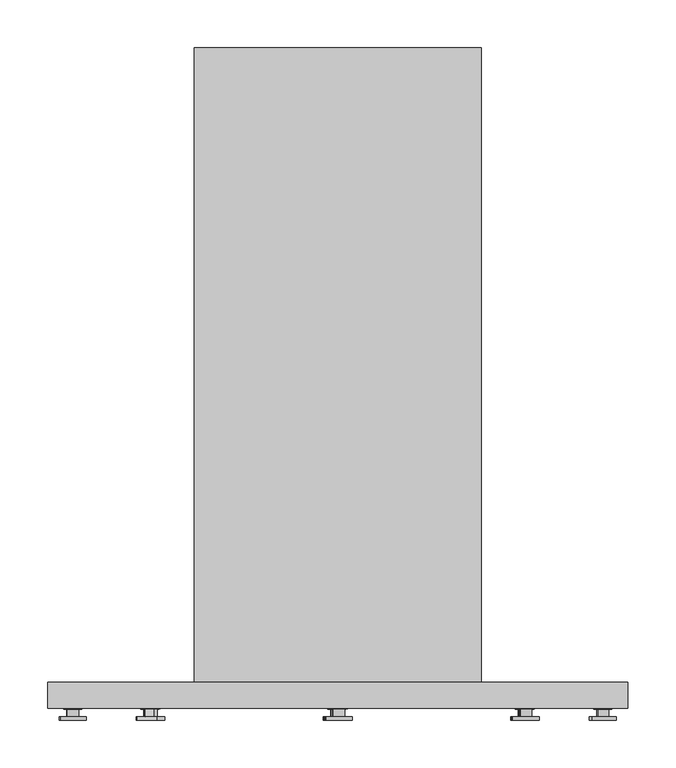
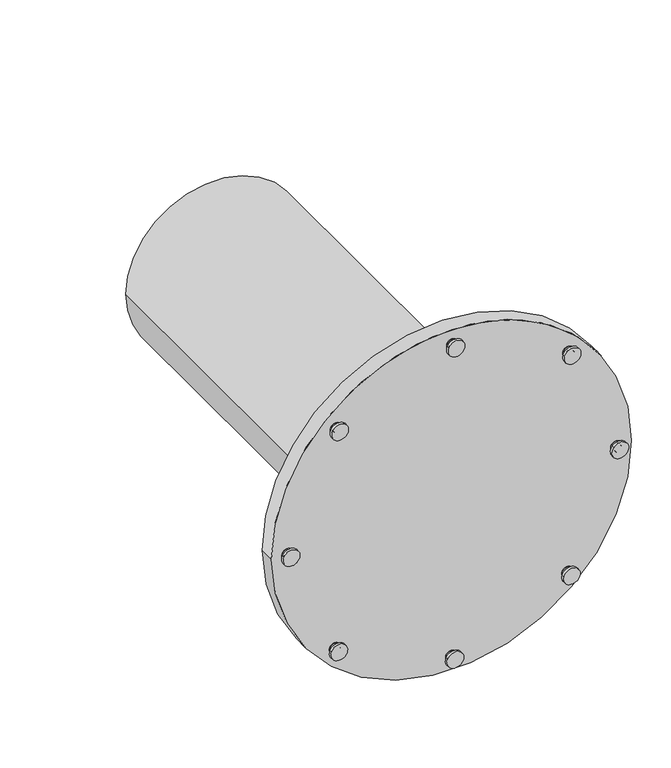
"""IFC4 building model written with IfcOpenShell, lengths in millimetres: proxy geometry, AERO^TABLE 1_AT0D-1207."""

from ifc_helpers import new_model, si_unit, point, frame, frame_2d, origin, place, context, project, spatial, circle_curve, trimmed, segment, composite_curve, outline, extrude, source, transform, mapped, element, save
from ifc_brep_helpers import plane_surface, cylinder_surface, advanced_brep


def generic_models_29dc40a3(model_context):
    return source(origin(), model_context, "Body", "SolidModel", [
        advanced_brep(
        [(-567.7050955, -713.8035, -332.9711654), (-567.7050955, -712.216, -332.9711654), (-585.3873793, -712.216, -325.8831939), (-585.3873793, -713.8035, -325.8831939), (-572.8624283, -712.216, -330.9038404), (-572.8624283, -704.2785, -330.9038404), (-580.2300465, -704.2785, -327.9505189), (-580.2300465, -712.216, -327.9505189)],
        [
            (0, 1),
            (1, 2, circle_curve(frame((-576.5462374, -712.216, -329.4271796), z_axis=(0.0, -1.0000000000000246, 0.0), x_axis=(0.9282038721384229, 0.0, -0.37207199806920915)), 9.525)),
            (2, 3),
            (3, 0, circle_curve(frame((-576.5462374, -713.8035, -329.4271796), z_axis=(0.0, 1.0000000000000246, 0.0), x_axis=(0.9282038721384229, 0.0, -0.37207199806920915)), 9.525)),
            (4, 5),
            (5, 6, circle_curve(frame((-576.5462374, -704.2785, -329.4271796), z_axis=(0.0, -1.0000000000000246, 0.0), x_axis=(0.9282038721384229, 0.0, -0.37207199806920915)), 3.96875)),
            (6, 7),
            (7, 4, circle_curve(frame((-576.5462374, -712.216, -329.4271796), z_axis=(0.0, 1.0000000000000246, 0.0), x_axis=(0.9282038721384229, 0.0, -0.37207199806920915)), 3.96875)),
            (5, 6, circle_curve(frame((-576.5462374, -704.2785, -329.4271796), z_axis=(0.0, 1.0000000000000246, 0.0), x_axis=(0.9282038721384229, 0.0, -0.37207199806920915)), 3.96875)),
            (3, 0, circle_curve(frame((-576.5462374, -713.8035, -329.4271796), z_axis=(0.0, -1.0000000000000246, 0.0), x_axis=(0.9282038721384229, 0.0, -0.37207199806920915)), 9.525)),
            (4, 7, circle_curve(frame((-576.5462374, -712.216, -329.4271796), z_axis=(0.0, 1.0000000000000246, 0.0), x_axis=(0.9282038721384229, 0.0, -0.37207199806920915)), 3.96875)),
            (2, 1, circle_curve(frame((-576.5462374, -712.216, -329.4271796), z_axis=(0.0, -1.0000000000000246, 0.0), x_axis=(0.9282038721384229, 0.0, -0.37207199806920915)), 9.525)),
        ],
        [
            cylinder_surface(frame((-576.5462374, -713.8035, -329.4271796), z_axis=(0.0, 1.0000000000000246, 0.0), x_axis=(0.9282038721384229, 0.0, -0.37207199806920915)), 9.525),
            cylinder_surface(frame((-576.5462374, -712.216, -329.4271796), z_axis=(0.0, 1.0000000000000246, 0.0), x_axis=(0.9282038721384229, 0.0, -0.37207199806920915)), 3.96875),
            plane_surface(frame((-576.5462374, -704.2785, -329.4271796), z_axis=(0.0, 1.0000000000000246, 0.0), x_axis=(0.9282038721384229, 0.0, -0.37207199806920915))),
            plane_surface(frame((-576.5462374, -713.8035, -329.4271796), z_axis=(0.0, -1.0000000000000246, 0.0), x_axis=(0.9282038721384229, 0.0, -0.37207199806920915))),
            plane_surface(frame((-576.5462374, -712.216, -329.4271796), z_axis=(0.0, 1.0000000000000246, 0.0), x_axis=(0.9282038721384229, 0.0, -0.37207199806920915))),
        ],
        [
            (0, [[1, 2, 3, 4]]),
            (1, [[5, 6, 7, 8]]),
            (2, [[9, -6]]),
            (3, [[10, -4]]),
            (1, [[-5, 11, -7, -9]]),
            (0, [[-1, -10, -3, 12]]),
            (4, [[-12, -2], [-11, -8]]),
        ],
    ),
        advanced_brep(
        [(-294.154009, -713.8035, -612.7058237), (-294.154009, -721.741, -612.7058237), (-304.2084977, -721.741, -604.9471345), (-304.2084977, -713.8035, -604.9471345), (-287.8699537, -721.741, -617.5550045), (-287.8699537, -725.70975, -617.5550045), (-310.492553, -725.70975, -600.0979537), (-310.492553, -721.741, -600.0979537)],
        [
            (0, 1),
            (1, 2, circle_curve(frame((-299.1812534, -721.741, -608.8264791), z_axis=(0.0, 1.0000000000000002, 0.0), x_axis=(0.7916920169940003, 0.0, -0.6109204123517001)), 6.35)),
            (2, 3),
            (3, 0, circle_curve(frame((-299.1812534, -713.8035, -608.8264791), z_axis=(0.0, -1.0000000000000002, 0.0), x_axis=(0.7916920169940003, 0.0, -0.6109204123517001)), 6.35)),
            (4, 5),
            (5, 6, circle_curve(frame((-299.1812534, -725.70975, -608.8264791), z_axis=(0.0, 1.0000000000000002, 0.0), x_axis=(0.7916920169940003, 0.0, -0.6109204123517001)), 14.2875)),
            (6, 7),
            (7, 4, circle_curve(frame((-299.1812534, -721.741, -608.8264791), z_axis=(0.0, -1.0000000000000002, 0.0), x_axis=(0.7916920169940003, 0.0, -0.6109204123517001)), 14.2875)),
            (7, 4, circle_curve(frame((-299.1812534, -721.741, -608.8264791), z_axis=(0.0, 1.0000000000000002, 0.0), x_axis=(0.7916920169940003, 0.0, -0.6109204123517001)), 14.2875)),
            (1, 2, circle_curve(frame((-299.1812534, -721.741, -608.8264791), z_axis=(0.0, -1.0000000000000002, 0.0), x_axis=(0.7916920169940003, 0.0, -0.6109204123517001)), 6.35)),
            (6, 5, circle_curve(frame((-299.1812534, -725.70975, -608.8264791), z_axis=(0.0, 1.0000000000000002, 0.0), x_axis=(0.7916920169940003, 0.0, -0.6109204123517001)), 14.2875)),
            (3, 0, circle_curve(frame((-299.1812534, -713.8035, -608.8264791), z_axis=(0.0, 1.0000000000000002, 0.0), x_axis=(0.7916920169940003, 0.0, -0.6109204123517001)), 6.35)),
        ],
        [
            cylinder_surface(frame((-299.1812534, -714.59725, -608.8264791), z_axis=(0.0, -1.0000000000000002, 0.0), x_axis=(0.7916920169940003, 0.0, -0.6109204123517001)), 6.35),
            cylinder_surface(frame((-299.1812534, -722.53475, -608.8264791), z_axis=(0.0, -1.0000000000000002, 0.0), x_axis=(0.7916920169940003, 0.0, -0.6109204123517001)), 14.2875),
            plane_surface(frame((-288.4983592, -721.741, -617.0700864), z_axis=(0.0, 1.0000000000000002, 0.0), x_axis=(0.6109204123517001, 0.0, 0.7916920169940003))),
            plane_surface(frame((-295.4108201, -713.8035, -611.7359876), z_axis=(0.0, 1.0000000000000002, 0.0), x_axis=(0.6109204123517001, 0.0, 0.7916920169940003))),
            plane_surface(frame((-294.4682118, -725.70975, -612.4633647), z_axis=(0.0, -1.0000000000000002, 0.0), x_axis=(-0.6109204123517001, 0.0, -0.7916920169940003))),
        ],
        [
            (0, [[1, 2, 3, 4]]),
            (1, [[5, 6, 7, 8]]),
            (2, [[9, -8], [10, -2]]),
            (1, [[-5, -9, -7, 11]]),
            (3, [[12, -4]]),
            (0, [[-1, -12, -3, -10]]),
            (4, [[-6, -11]]),
        ],
    ),
        advanced_brep(
        [(-387.5232659, -713.8035, -803.5643143), (-387.5232659, -721.741, -803.5643143), (-375.3502022, -721.741, -807.1846071), (-375.3502022, -713.8035, -807.1846071), (-395.1314307, -721.741, -801.3016313), (-395.1314307, -725.70975, -801.3016313), (-367.7420374, -725.70975, -809.4472901), (-367.7420374, -721.741, -809.4472901)],
        [
            (0, 1),
            (1, 2, circle_curve(frame((-381.4367341, -721.741, -805.3744607), z_axis=(0.0, 0.9999999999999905, 0.0), x_axis=(-0.9585089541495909, 0.0, 0.2850624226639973)), 6.35)),
            (2, 3),
            (3, 0, circle_curve(frame((-381.4367341, -713.8035, -805.3744607), z_axis=(0.0, -0.9999999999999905, 0.0), x_axis=(-0.9585089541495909, 0.0, 0.2850624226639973)), 6.35)),
            (4, 5),
            (5, 6, circle_curve(frame((-381.4367341, -725.70975, -805.3744607), z_axis=(0.0, 0.9999999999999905, 0.0), x_axis=(-0.9585089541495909, 0.0, 0.2850624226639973)), 14.2875)),
            (6, 7),
            (7, 4, circle_curve(frame((-381.4367341, -721.741, -805.3744607), z_axis=(0.0, -0.9999999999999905, 0.0), x_axis=(-0.9585089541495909, 0.0, 0.2850624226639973)), 14.2875)),
            (7, 4, circle_curve(frame((-381.4367341, -721.741, -805.3744607), z_axis=(0.0, 0.9999999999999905, 0.0), x_axis=(-0.9585089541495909, 0.0, 0.2850624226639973)), 14.2875)),
            (1, 2, circle_curve(frame((-381.4367341, -721.741, -805.3744607), z_axis=(0.0, -0.9999999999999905, 0.0), x_axis=(-0.9585089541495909, 0.0, 0.2850624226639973)), 6.35)),
            (6, 5, circle_curve(frame((-381.4367341, -725.70975, -805.3744607), z_axis=(0.0, 0.9999999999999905, 0.0), x_axis=(-0.9585089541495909, 0.0, 0.2850624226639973)), 14.2875)),
            (3, 0, circle_curve(frame((-381.4367341, -713.8035, -805.3744607), z_axis=(0.0, 0.9999999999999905, 0.0), x_axis=(-0.9585089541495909, 0.0, 0.2850624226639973)), 6.35)),
        ],
        [
            cylinder_surface(frame((-381.4367341, -714.59725, -805.3744607), z_axis=(0.0, -0.9999999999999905, 0.0), x_axis=(-0.9585089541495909, 0.0, 0.2850624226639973)), 6.35),
            cylinder_surface(frame((-381.4367341, -722.53475, -805.3744607), z_axis=(0.0, -0.9999999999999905, 0.0), x_axis=(-0.9585089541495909, 0.0, 0.2850624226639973)), 14.2875),
            plane_surface(frame((-394.3706143, -721.741, -801.5278996), z_axis=(0.0, 0.9999999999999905, 0.0), x_axis=(-0.2850624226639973, 0.0, -0.9585089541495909))),
            plane_surface(frame((-386.0016329, -713.8035, -804.0168509), z_axis=(0.0, 0.9999999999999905, 0.0), x_axis=(-0.2850624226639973, 0.0, -0.9585089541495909))),
            plane_surface(frame((-387.1428577, -725.70975, -803.6774485), z_axis=(0.0, -0.9999999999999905, 0.0), x_axis=(0.2850624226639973, 0.0, 0.9585089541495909))),
        ],
        [
            (0, [[1, 2, 3, 4]]),
            (1, [[5, 6, 7, 8]]),
            (2, [[9, -8], [10, -2]]),
            (1, [[-5, -9, -7, 11]]),
            (3, [[12, -4]]),
            (0, [[-1, -12, -3, -10]]),
            (4, [[-6, -11]]),
        ],
    ),
        advanced_brep(
        [(-776.3765448, -713.8035, -415.9979008), (-776.3765448, -721.741, -415.9979008), (-771.0035676, -721.741, -404.4904633), (-771.0035676, -713.8035, -404.4904633), (-779.7346555, -721.741, -423.1900492), (-779.7346555, -725.70975, -423.1900492), (-767.6454568, -725.70975, -397.2983149), (-767.6454568, -721.741, -397.2983149)],
        [
            (0, 1),
            (1, 2, circle_curve(frame((-773.6900562, -721.741, -410.2441821), z_axis=(0.0, 0.9999999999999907, 0.0), x_axis=(-0.42306906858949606, 0.0, -0.9060974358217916)), 6.35)),
            (2, 3),
            (3, 0, circle_curve(frame((-773.6900562, -713.8035, -410.2441821), z_axis=(0.0, -0.9999999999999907, 0.0), x_axis=(-0.42306906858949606, 0.0, -0.9060974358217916)), 6.35)),
            (4, 5),
            (5, 6, circle_curve(frame((-773.6900562, -725.70975, -410.2441821), z_axis=(0.0, 0.9999999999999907, 0.0), x_axis=(-0.42306906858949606, 0.0, -0.9060974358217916)), 14.2875)),
            (6, 7),
            (7, 4, circle_curve(frame((-773.6900562, -721.741, -410.2441821), z_axis=(0.0, -0.9999999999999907, 0.0), x_axis=(-0.42306906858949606, 0.0, -0.9060974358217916)), 14.2875)),
            (7, 4, circle_curve(frame((-773.6900562, -721.741, -410.2441821), z_axis=(0.0, 0.9999999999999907, 0.0), x_axis=(-0.42306906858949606, 0.0, -0.9060974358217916)), 14.2875)),
            (1, 2, circle_curve(frame((-773.6900562, -721.741, -410.2441821), z_axis=(0.0, -0.9999999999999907, 0.0), x_axis=(-0.42306906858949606, 0.0, -0.9060974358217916)), 6.35)),
            (6, 5, circle_curve(frame((-773.6900562, -725.70975, -410.2441821), z_axis=(0.0, 0.9999999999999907, 0.0), x_axis=(-0.42306906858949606, 0.0, -0.9060974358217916)), 14.2875)),
            (3, 0, circle_curve(frame((-773.6900562, -713.8035, -410.2441821), z_axis=(0.0, 0.9999999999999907, 0.0), x_axis=(-0.42306906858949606, 0.0, -0.9060974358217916)), 6.35)),
        ],
        [
            cylinder_surface(frame((-773.6900562, -714.59725, -410.2441821), z_axis=(0.0, -0.9999999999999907, 0.0), x_axis=(-0.42306906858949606, 0.0, -0.9060974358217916)), 6.35),
            cylinder_surface(frame((-773.6900562, -722.53475, -410.2441821), z_axis=(0.0, -0.9999999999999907, 0.0), x_axis=(-0.42306906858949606, 0.0, -0.9060974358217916)), 14.2875),
            plane_surface(frame((-779.3988444, -721.741, -422.4708343), z_axis=(0.0, 0.9999999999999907, 0.0), x_axis=(0.9060974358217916, 0.0, -0.42306906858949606))),
            plane_surface(frame((-775.7049226, -713.8035, -414.5594711), z_axis=(0.0, 0.9999999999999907, 0.0), x_axis=(0.9060974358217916, 0.0, -0.42306906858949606))),
            plane_surface(frame((-776.2086392, -725.70975, -415.6382934), z_axis=(0.0, -0.9999999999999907, 0.0), x_axis=(-0.9060974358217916, 0.0, 0.42306906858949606))),
        ],
        [
            (0, [[1, 2, 3, 4]]),
            (1, [[5, 6, 7, 8]]),
            (2, [[9, -8], [10, -2]]),
            (1, [[-5, -9, -7, 11]]),
            (3, [[12, -4]]),
            (0, [[-1, -12, -3, -10]]),
            (4, [[-6, -11]]),
        ],
    ),
        advanced_brep(
        [(-728.3758951, -19.05, -607.8093214), (-728.3758951, -685.8, -607.8093214), (-426.7508951, -685.8, -607.8093214), (-426.7508951, -19.05, -607.8093214), (-477.5508951, -19.05, -720.6893905), (-477.5508951, -685.8, -720.6893905)],
        [
            (0, 1),
            (1, 2, circle_curve(frame((-577.5633951, -685.8, -607.8093214), z_axis=(0.0, 1.0, 0.0), x_axis=(-1.0, 0.0, 0.0)), 150.8125)),
            (2, 3),
            (3, 0, circle_curve(frame((-577.5633951, -19.05, -607.8093214), z_axis=(0.0, -1.0, 0.0), x_axis=(-1.0, 0.0, 0.0)), 150.8125)),
            (4, 0, circle_curve(frame((-577.5633951, -19.05, -607.8093214), z_axis=(0.0, 1.0, 0.0), x_axis=(-1.0, 0.0, 0.0)), 150.8125)),
            (3, 4, circle_curve(frame((-577.5633951, -19.05, -607.8093214), z_axis=(0.0, 1.0, 0.0), x_axis=(-1.0, 0.0, 0.0)), 150.8125)),
            (1, 5, circle_curve(frame((-577.5633951, -685.8, -607.8093214), z_axis=(0.0, -1.0, 0.0), x_axis=(-1.0, 0.0, 0.0)), 150.8125)),
            (5, 2, circle_curve(frame((-577.5633951, -685.8, -607.8093214), z_axis=(0.0, -1.0, 0.0), x_axis=(-1.0, 0.0, 0.0)), 150.8125)),
        ],
        [
            cylinder_surface(frame((-577.5633951, -19.05, -607.8093214), z_axis=(0.0, -1.0, 0.0), x_axis=(-1.0, 0.0, 0.0)), 150.8125),
            plane_surface(frame((-577.5633951, -19.05, -607.8093214), z_axis=(0.0, 1.0, 0.0), x_axis=(-1.0, 0.0, 0.0))),
            plane_surface(frame((-577.5633951, -685.8, -607.8093214), z_axis=(0.0, -1.0, 0.0), x_axis=(-1.0, 0.0, 0.0))),
        ],
        [
            (0, [[1, 2, 3, 4]]),
            (1, [[5, -4, 6]]),
            (2, [[7, 8, -2]]),
            (0, [[-1, -5, -6, -3, -8, -7]]),
        ],
    ),
        advanced_brep(
        [(-371.1571139, -713.8035, -415.2266461), (-371.1571139, -712.216, -415.2266461), (-388.8393977, -712.216, -408.1386745), (-388.8393977, -713.8035, -408.1386745), (-376.3144467, -712.216, -413.1593211), (-376.3144467, -704.2785, -413.1593211), (-383.6820649, -704.2785, -410.2059996), (-383.6820649, -712.216, -410.2059996)],
        [
            (0, 1),
            (1, 2, circle_curve(frame((-379.9982558, -712.216, -411.6826603), z_axis=(0.0, -1.0000000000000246, 0.0), x_axis=(0.9282038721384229, 0.0, -0.37207199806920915)), 9.525)),
            (2, 3),
            (3, 0, circle_curve(frame((-379.9982558, -713.8035, -411.6826603), z_axis=(0.0, 1.0000000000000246, 0.0), x_axis=(0.9282038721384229, 0.0, -0.37207199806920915)), 9.525)),
            (4, 5),
            (5, 6, circle_curve(frame((-379.9982558, -704.2785, -411.6826603), z_axis=(0.0, -1.0000000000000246, 0.0), x_axis=(0.9282038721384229, 0.0, -0.37207199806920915)), 3.96875)),
            (6, 7),
            (7, 4, circle_curve(frame((-379.9982558, -712.216, -411.6826603), z_axis=(0.0, 1.0000000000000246, 0.0), x_axis=(0.9282038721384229, 0.0, -0.37207199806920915)), 3.96875)),
            (5, 6, circle_curve(frame((-379.9982558, -704.2785, -411.6826603), z_axis=(0.0, 1.0000000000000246, 0.0), x_axis=(0.9282038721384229, 0.0, -0.37207199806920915)), 3.96875)),
            (3, 0, circle_curve(frame((-379.9982558, -713.8035, -411.6826603), z_axis=(0.0, -1.0000000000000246, 0.0), x_axis=(0.9282038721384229, 0.0, -0.37207199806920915)), 9.525)),
            (4, 7, circle_curve(frame((-379.9982558, -712.216, -411.6826603), z_axis=(0.0, 1.0000000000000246, 0.0), x_axis=(0.9282038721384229, 0.0, -0.37207199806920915)), 3.96875)),
            (2, 1, circle_curve(frame((-379.9982558, -712.216, -411.6826603), z_axis=(0.0, -1.0000000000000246, 0.0), x_axis=(0.9282038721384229, 0.0, -0.37207199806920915)), 9.525)),
        ],
        [
            cylinder_surface(frame((-379.9982558, -713.8035, -411.6826603), z_axis=(0.0, 1.0000000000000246, 0.0), x_axis=(0.9282038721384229, 0.0, -0.37207199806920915)), 9.525),
            cylinder_surface(frame((-379.9982558, -712.216, -411.6826603), z_axis=(0.0, 1.0000000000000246, 0.0), x_axis=(0.9282038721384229, 0.0, -0.37207199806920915)), 3.96875),
            plane_surface(frame((-379.9982558, -704.2785, -411.6826603), z_axis=(0.0, 1.0000000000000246, 0.0), x_axis=(0.9282038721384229, 0.0, -0.37207199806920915))),
            plane_surface(frame((-379.9982558, -713.8035, -411.6826603), z_axis=(0.0, -1.0000000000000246, 0.0), x_axis=(0.9282038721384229, 0.0, -0.37207199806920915))),
            plane_surface(frame((-379.9982558, -712.216, -411.6826603), z_axis=(0.0, 1.0000000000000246, 0.0), x_axis=(0.9282038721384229, 0.0, -0.37207199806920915))),
        ],
        [
            (0, [[1, 2, 3, 4]]),
            (1, [[5, 6, 7, 8]]),
            (2, [[9, -6]]),
            (3, [[10, -4]]),
            (1, [[-5, 11, -7, -9]]),
            (0, [[-1, -10, -3, 12]]),
            (4, [[-12, -2], [-11, -8]]),
        ],
    ),
        advanced_brep(
        [(-372.5955922, -713.8035, -808.9184465), (-372.5955922, -712.216, -808.9184465), (-390.2778759, -712.216, -801.8304749), (-390.2778759, -713.8035, -801.8304749), (-377.7529249, -712.216, -806.8511215), (-377.7529249, -704.2785, -806.8511215), (-385.1205432, -704.2785, -803.8978), (-385.1205432, -712.216, -803.8978)],
        [
            (0, 1),
            (1, 2, circle_curve(frame((-381.4367341, -712.216, -805.3744607), z_axis=(0.0, -1.0000000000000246, 0.0), x_axis=(0.9282038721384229, 0.0, -0.37207199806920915)), 9.525)),
            (2, 3),
            (3, 0, circle_curve(frame((-381.4367341, -713.8035, -805.3744607), z_axis=(0.0, 1.0000000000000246, 0.0), x_axis=(0.9282038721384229, 0.0, -0.37207199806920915)), 9.525)),
            (4, 5),
            (5, 6, circle_curve(frame((-381.4367341, -704.2785, -805.3744607), z_axis=(0.0, -1.0000000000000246, 0.0), x_axis=(0.9282038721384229, 0.0, -0.37207199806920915)), 3.96875)),
            (6, 7),
            (7, 4, circle_curve(frame((-381.4367341, -712.216, -805.3744607), z_axis=(0.0, 1.0000000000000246, 0.0), x_axis=(0.9282038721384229, 0.0, -0.37207199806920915)), 3.96875)),
            (5, 6, circle_curve(frame((-381.4367341, -704.2785, -805.3744607), z_axis=(0.0, 1.0000000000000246, 0.0), x_axis=(0.9282038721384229, 0.0, -0.37207199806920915)), 3.96875)),
            (3, 0, circle_curve(frame((-381.4367341, -713.8035, -805.3744607), z_axis=(0.0, -1.0000000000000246, 0.0), x_axis=(0.9282038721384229, 0.0, -0.37207199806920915)), 9.525)),
            (4, 7, circle_curve(frame((-381.4367341, -712.216, -805.3744607), z_axis=(0.0, 1.0000000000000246, 0.0), x_axis=(0.9282038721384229, 0.0, -0.37207199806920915)), 3.96875)),
            (2, 1, circle_curve(frame((-381.4367341, -712.216, -805.3744607), z_axis=(0.0, -1.0000000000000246, 0.0), x_axis=(0.9282038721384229, 0.0, -0.37207199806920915)), 9.525)),
        ],
        [
            cylinder_surface(frame((-381.4367341, -713.8035, -805.3744607), z_axis=(0.0, 1.0000000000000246, 0.0), x_axis=(0.9282038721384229, 0.0, -0.37207199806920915)), 9.525),
            cylinder_surface(frame((-381.4367341, -712.216, -805.3744607), z_axis=(0.0, 1.0000000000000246, 0.0), x_axis=(0.9282038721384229, 0.0, -0.37207199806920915)), 3.96875),
            plane_surface(frame((-381.4367341, -704.2785, -805.3744607), z_axis=(0.0, 1.0000000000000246, 0.0), x_axis=(0.9282038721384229, 0.0, -0.37207199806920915))),
            plane_surface(frame((-381.4367341, -713.8035, -805.3744607), z_axis=(0.0, -1.0000000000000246, 0.0), x_axis=(0.9282038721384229, 0.0, -0.37207199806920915))),
            plane_surface(frame((-381.4367341, -712.216, -805.3744607), z_axis=(0.0, 1.0000000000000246, 0.0), x_axis=(0.9282038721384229, 0.0, -0.37207199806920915))),
        ],
        [
            (0, [[1, 2, 3, 4]]),
            (1, [[5, 6, 7, 8]]),
            (2, [[9, -6]]),
            (3, [[10, -4]]),
            (1, [[-5, 11, -7, -9]]),
            (0, [[-1, -10, -3, 12]]),
            (4, [[-12, -2], [-11, -8]]),
        ],
    ),
        advanced_brep(
        [(-766.2873926, -713.8035, -807.4799682), (-766.2873926, -712.216, -807.4799682), (-783.9696763, -712.216, -800.3919967), (-783.9696763, -713.8035, -800.3919967), (-771.4447253, -712.216, -805.4126432), (-771.4447253, -704.2785, -805.4126432), (-778.8123436, -704.2785, -802.4593217), (-778.8123436, -712.216, -802.4593217)],
        [
            (0, 1),
            (1, 2, circle_curve(frame((-775.1285344, -712.216, -803.9359824), z_axis=(0.0, -1.0000000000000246, 0.0), x_axis=(0.9282038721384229, 0.0, -0.37207199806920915)), 9.525)),
            (2, 3),
            (3, 0, circle_curve(frame((-775.1285344, -713.8035, -803.9359824), z_axis=(0.0, 1.0000000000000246, 0.0), x_axis=(0.9282038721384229, 0.0, -0.37207199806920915)), 9.525)),
            (4, 5),
            (5, 6, circle_curve(frame((-775.1285344, -704.2785, -803.9359824), z_axis=(0.0, -1.0000000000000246, 0.0), x_axis=(0.9282038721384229, 0.0, -0.37207199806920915)), 3.96875)),
            (6, 7),
            (7, 4, circle_curve(frame((-775.1285344, -712.216, -803.9359824), z_axis=(0.0, 1.0000000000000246, 0.0), x_axis=(0.9282038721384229, 0.0, -0.37207199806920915)), 3.96875)),
            (5, 6, circle_curve(frame((-775.1285344, -704.2785, -803.9359824), z_axis=(0.0, 1.0000000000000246, 0.0), x_axis=(0.9282038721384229, 0.0, -0.37207199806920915)), 3.96875)),
            (3, 0, circle_curve(frame((-775.1285344, -713.8035, -803.9359824), z_axis=(0.0, -1.0000000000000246, 0.0), x_axis=(0.9282038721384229, 0.0, -0.37207199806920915)), 9.525)),
            (4, 7, circle_curve(frame((-775.1285344, -712.216, -803.9359824), z_axis=(0.0, 1.0000000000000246, 0.0), x_axis=(0.9282038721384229, 0.0, -0.37207199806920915)), 3.96875)),
            (2, 1, circle_curve(frame((-775.1285344, -712.216, -803.9359824), z_axis=(0.0, -1.0000000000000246, 0.0), x_axis=(0.9282038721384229, 0.0, -0.37207199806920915)), 9.525)),
        ],
        [
            cylinder_surface(frame((-775.1285344, -713.8035, -803.9359824), z_axis=(0.0, 1.0000000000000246, 0.0), x_axis=(0.9282038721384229, 0.0, -0.37207199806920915)), 9.525),
            cylinder_surface(frame((-775.1285344, -712.216, -803.9359824), z_axis=(0.0, 1.0000000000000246, 0.0), x_axis=(0.9282038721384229, 0.0, -0.37207199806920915)), 3.96875),
            plane_surface(frame((-775.1285344, -704.2785, -803.9359824), z_axis=(0.0, 1.0000000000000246, 0.0), x_axis=(0.9282038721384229, 0.0, -0.37207199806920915))),
            plane_surface(frame((-775.1285344, -713.8035, -803.9359824), z_axis=(0.0, -1.0000000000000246, 0.0), x_axis=(0.9282038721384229, 0.0, -0.37207199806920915))),
            plane_surface(frame((-775.1285344, -712.216, -803.9359824), z_axis=(0.0, 1.0000000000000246, 0.0), x_axis=(0.9282038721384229, 0.0, -0.37207199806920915))),
        ],
        [
            (0, [[1, 2, 3, 4]]),
            (1, [[5, 6, 7, 8]]),
            (2, [[9, -6]]),
            (3, [[10, -4]]),
            (1, [[-5, 11, -7, -9]]),
            (0, [[-1, -10, -3, 12]]),
            (4, [[-12, -2], [-11, -8]]),
        ],
    ),
        extrude(outline(composite_curve([segment(trimmed(circle_curve(frame_2d((-607.8093214, -577.5633951)), 304.8), [point((-607.8093214, -882.3633951))], [point((-607.8093214, -272.7633951))], False, "CARTESIAN"), True, "CONTINUOUS"), segment(trimmed(circle_curve(frame_2d((-607.8093214, -577.5633951)), 304.8), [point((-607.8093214, -272.7633951))], [point((-607.8093214, -882.3633951))], False, "CARTESIAN"), True, "CONTINUOUS")], self_intersect=False)), frame((0.0, -712.7875, 0.0), z_axis=(0.0, 1.0, 0.0), x_axis=(0.0, 0.0, 1.0)), (0.0, 0.0, 1.0), 26.9875),
        advanced_brep(
        [(-386.0626843, -713.8035, -409.7997885), (-386.0626843, -721.741, -409.7997885), (-373.9338272, -721.741, -413.5655321), (-373.9338272, -713.8035, -413.5655321), (-393.64322, -721.741, -407.4461987), (-393.64322, -725.70975, -407.4461987), (-366.3532915, -725.70975, -415.9191219), (-366.3532915, -721.741, -415.9191219)],
        [
            (0, 1),
            (1, 2, circle_curve(frame((-379.9982558, -721.741, -411.6826603), z_axis=(0.0, 1.0000000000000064, 0.0), x_axis=(-0.9550281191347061, 0.0, 0.2965152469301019)), 6.35)),
            (2, 3),
            (3, 0, circle_curve(frame((-379.9982558, -713.8035, -411.6826603), z_axis=(0.0, -1.0000000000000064, 0.0), x_axis=(-0.9550281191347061, 0.0, 0.2965152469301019)), 6.35)),
            (4, 5),
            (5, 6, circle_curve(frame((-379.9982558, -725.70975, -411.6826603), z_axis=(0.0, 1.0000000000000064, 0.0), x_axis=(-0.9550281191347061, 0.0, 0.2965152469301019)), 14.2875)),
            (6, 7),
            (7, 4, circle_curve(frame((-379.9982558, -721.741, -411.6826603), z_axis=(0.0, -1.0000000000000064, 0.0), x_axis=(-0.9550281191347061, 0.0, 0.2965152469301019)), 14.2875)),
            (7, 4, circle_curve(frame((-379.9982558, -721.741, -411.6826603), z_axis=(0.0, 1.0000000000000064, 0.0), x_axis=(-0.9550281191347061, 0.0, 0.2965152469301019)), 14.2875)),
            (1, 2, circle_curve(frame((-379.9982558, -721.741, -411.6826603), z_axis=(0.0, -1.0000000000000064, 0.0), x_axis=(-0.9550281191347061, 0.0, 0.2965152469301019)), 6.35)),
            (6, 5, circle_curve(frame((-379.9982558, -725.70975, -411.6826603), z_axis=(0.0, 1.0000000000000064, 0.0), x_axis=(-0.9550281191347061, 0.0, 0.2965152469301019)), 14.2875)),
            (3, 0, circle_curve(frame((-379.9982558, -713.8035, -411.6826603), z_axis=(0.0, 1.0000000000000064, 0.0), x_axis=(-0.9550281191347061, 0.0, 0.2965152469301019)), 6.35)),
        ],
        [
            cylinder_surface(frame((-379.9982558, -714.59725, -411.6826603), z_axis=(0.0, -1.0000000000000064, 0.0), x_axis=(-0.9550281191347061, 0.0, 0.2965152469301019)), 6.35),
            cylinder_surface(frame((-379.9982558, -722.53475, -411.6826603), z_axis=(0.0, -1.0000000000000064, 0.0), x_axis=(-0.9550281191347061, 0.0, 0.2965152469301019)), 14.2875),
            plane_surface(frame((-392.8851665, -721.741, -407.6815577), z_axis=(0.0, 1.0000000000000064, 0.0), x_axis=(-0.2965152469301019, 0.0, -0.9550281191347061))),
            plane_surface(frame((-384.5465772, -713.8035, -410.2705065), z_axis=(0.0, 1.0000000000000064, 0.0), x_axis=(-0.2965152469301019, 0.0, -0.9550281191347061))),
            plane_surface(frame((-385.6836576, -725.70975, -409.917468), z_axis=(0.0, -1.0000000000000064, 0.0), x_axis=(0.2965152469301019, 0.0, 0.9550281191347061))),
        ],
        [
            (0, [[1, 2, 3, 4]]),
            (1, [[5, 6, 7, 8]]),
            (2, [[9, -8], [10, -2]]),
            (1, [[-5, -9, -7, 11]]),
            (3, [[12, -4]]),
            (0, [[-1, -12, -3, -10]]),
            (4, [[-6, -11]]),
        ],
    ),
        advanced_brep(
        [(-584.4715181, -713.8035, -883.8210142), (-584.4715181, -721.741, -883.8210142), (-572.6895876, -721.741, -888.5619121), (-572.6895876, -713.8035, -888.5619121), (-591.8352247, -721.741, -880.857953), (-591.8352247, -725.70975, -880.857953), (-565.325881, -725.70975, -891.5249733), (-565.325881, -721.741, -891.5249733)],
        [
            (0, 1),
            (1, 2, circle_curve(frame((-578.5805528, -721.741, -886.1914631), z_axis=(0.0, 0.9999999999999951, 0.0), x_axis=(-0.9277110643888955, 0.0, 0.37329905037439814)), 6.35)),
            (2, 3),
            (3, 0, circle_curve(frame((-578.5805528, -713.8035, -886.1914631), z_axis=(0.0, -0.9999999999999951, 0.0), x_axis=(-0.9277110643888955, 0.0, 0.37329905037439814)), 6.35)),
            (4, 5),
            (5, 6, circle_curve(frame((-578.5805528, -725.70975, -886.1914631), z_axis=(0.0, 0.9999999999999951, 0.0), x_axis=(-0.9277110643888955, 0.0, 0.37329905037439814)), 14.2875)),
            (6, 7),
            (7, 4, circle_curve(frame((-578.5805528, -721.741, -886.1914631), z_axis=(0.0, -0.9999999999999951, 0.0), x_axis=(-0.9277110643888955, 0.0, 0.37329905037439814)), 14.2875)),
            (7, 4, circle_curve(frame((-578.5805528, -721.741, -886.1914631), z_axis=(0.0, 0.9999999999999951, 0.0), x_axis=(-0.9277110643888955, 0.0, 0.37329905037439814)), 14.2875)),
            (1, 2, circle_curve(frame((-578.5805528, -721.741, -886.1914631), z_axis=(0.0, -0.9999999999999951, 0.0), x_axis=(-0.9277110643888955, 0.0, 0.37329905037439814)), 6.35)),
            (6, 5, circle_curve(frame((-578.5805528, -725.70975, -886.1914631), z_axis=(0.0, 0.9999999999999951, 0.0), x_axis=(-0.9277110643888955, 0.0, 0.37329905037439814)), 14.2875)),
            (3, 0, circle_curve(frame((-578.5805528, -713.8035, -886.1914631), z_axis=(0.0, 0.9999999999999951, 0.0), x_axis=(-0.9277110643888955, 0.0, 0.37329905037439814)), 6.35)),
        ],
        [
            cylinder_surface(frame((-578.5805528, -714.59725, -886.1914631), z_axis=(0.0, -0.9999999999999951, 0.0), x_axis=(-0.9277110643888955, 0.0, 0.37329905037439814)), 6.35),
            cylinder_surface(frame((-578.5805528, -722.53475, -886.1914631), z_axis=(0.0, -0.9999999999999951, 0.0), x_axis=(-0.9277110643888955, 0.0, 0.37329905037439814)), 14.2875),
            plane_surface(frame((-591.098854, -721.741, -881.1542591), z_axis=(0.0, 0.9999999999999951, 0.0), x_axis=(-0.37329905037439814, 0.0, -0.9277110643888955))),
            plane_surface(frame((-582.9987768, -713.8035, -884.4136264), z_axis=(0.0, 0.9999999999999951, 0.0), x_axis=(-0.37329905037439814, 0.0, -0.9277110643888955))),
            plane_surface(frame((-584.1033328, -725.70975, -883.9691672), z_axis=(0.0, -0.9999999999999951, 0.0), x_axis=(0.37329905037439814, 0.0, 0.9277110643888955))),
        ],
        [
            (0, [[1, 2, 3, 4]]),
            (1, [[5, 6, 7, 8]]),
            (2, [[9, -8], [10, -2]]),
            (1, [[-5, -9, -7, 11]]),
            (3, [[12, -4]]),
            (0, [[-1, -12, -3, -10]]),
            (4, [[-6, -11]]),
        ],
    ),
        advanced_brep(
        [(-781.022629, -713.8035, -801.5733253), (-781.022629, -721.741, -801.5733253), (-769.2344398, -721.741, -806.2986396), (-769.2344398, -713.8035, -806.2986396), (-788.3902473, -721.741, -798.6200038), (-788.3902473, -725.70975, -798.6200038), (-761.8668216, -725.70975, -809.2519611), (-761.8668216, -721.741, -809.2519611)],
        [
            (0, 1),
            (1, 2, circle_curve(frame((-775.1285344, -721.741, -803.9359824), z_axis=(0.0, 1.0000000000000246, 0.0), x_axis=(-0.9282038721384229, 0.0, 0.37207199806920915)), 6.35)),
            (2, 3),
            (3, 0, circle_curve(frame((-775.1285344, -713.8035, -803.9359824), z_axis=(0.0, -1.0000000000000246, 0.0), x_axis=(-0.9282038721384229, 0.0, 0.37207199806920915)), 6.35)),
            (4, 5),
            (5, 6, circle_curve(frame((-775.1285344, -725.70975, -803.9359824), z_axis=(0.0, 1.0000000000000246, 0.0), x_axis=(-0.9282038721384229, 0.0, 0.37207199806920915)), 14.2875)),
            (6, 7),
            (7, 4, circle_curve(frame((-775.1285344, -721.741, -803.9359824), z_axis=(0.0, -1.0000000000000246, 0.0), x_axis=(-0.9282038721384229, 0.0, 0.37207199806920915)), 14.2875)),
            (7, 4, circle_curve(frame((-775.1285344, -721.741, -803.9359824), z_axis=(0.0, 1.0000000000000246, 0.0), x_axis=(-0.9282038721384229, 0.0, 0.37207199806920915)), 14.2875)),
            (1, 2, circle_curve(frame((-775.1285344, -721.741, -803.9359824), z_axis=(0.0, -1.0000000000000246, 0.0), x_axis=(-0.9282038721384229, 0.0, 0.37207199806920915)), 6.35)),
            (6, 5, circle_curve(frame((-775.1285344, -725.70975, -803.9359824), z_axis=(0.0, 1.0000000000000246, 0.0), x_axis=(-0.9282038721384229, 0.0, 0.37207199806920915)), 14.2875)),
            (3, 0, circle_curve(frame((-775.1285344, -713.8035, -803.9359824), z_axis=(0.0, 1.0000000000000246, 0.0), x_axis=(-0.9282038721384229, 0.0, 0.37207199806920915)), 6.35)),
        ],
        [
            cylinder_surface(frame((-775.1285344, -714.59725, -803.9359824), z_axis=(0.0, -1.0000000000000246, 0.0), x_axis=(-0.9282038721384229, 0.0, 0.37207199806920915)), 6.35),
            cylinder_surface(frame((-775.1285344, -722.53475, -803.9359824), z_axis=(0.0, -1.0000000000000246, 0.0), x_axis=(-0.9282038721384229, 0.0, 0.37207199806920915)), 14.2875),
            plane_surface(frame((-787.6534854, -721.741, -798.9153359), z_axis=(0.0, 1.0000000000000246, 0.0), x_axis=(-0.37207199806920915, 0.0, -0.9282038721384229))),
            plane_surface(frame((-779.5491054, -713.8035, -802.1639896), z_axis=(0.0, 1.0000000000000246, 0.0), x_axis=(-0.37207199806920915, 0.0, -0.9282038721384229))),
            plane_surface(frame((-780.6542481, -725.70975, -801.7209913), z_axis=(0.0, -1.0000000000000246, 0.0), x_axis=(0.37207199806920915, 0.0, 0.9282038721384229))),
        ],
        [
            (0, [[1, 2, 3, 4]]),
            (1, [[5, 6, 7, 8]]),
            (2, [[9, -8], [10, -2]]),
            (1, [[-5, -9, -7, 11]]),
            (3, [[12, -4]]),
            (0, [[-1, -12, -3, -10]]),
            (4, [[-6, -11]]),
        ],
    ),
        advanced_brep(
        [(-582.4055133, -713.8035, -326.9794489), (-582.4055133, -721.741, -326.9794489), (-570.6869615, -721.741, -331.8749104), (-570.6869615, -713.8035, -331.8749104), (-589.7296082, -721.741, -323.9197855), (-589.7296082, -725.70975, -323.9197855), (-563.3628666, -725.70975, -334.9345738), (-563.3628666, -721.741, -334.9345738)],
        [
            (0, 1),
            (1, 2, circle_curve(frame((-576.5462374, -721.741, -329.4271796), z_axis=(0.0, 0.9999999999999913, 0.0), x_axis=(-0.922720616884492, 0.0, 0.3854694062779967)), 6.35)),
            (2, 3),
            (3, 0, circle_curve(frame((-576.5462374, -713.8035, -329.4271796), z_axis=(0.0, -0.9999999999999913, 0.0), x_axis=(-0.922720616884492, 0.0, 0.3854694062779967)), 6.35)),
            (4, 5),
            (5, 6, circle_curve(frame((-576.5462374, -725.70975, -329.4271796), z_axis=(0.0, 0.9999999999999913, 0.0), x_axis=(-0.922720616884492, 0.0, 0.3854694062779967)), 14.2875)),
            (6, 7),
            (7, 4, circle_curve(frame((-576.5462374, -721.741, -329.4271796), z_axis=(0.0, -0.9999999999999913, 0.0), x_axis=(-0.922720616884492, 0.0, 0.3854694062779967)), 14.2875)),
            (7, 4, circle_curve(frame((-576.5462374, -721.741, -329.4271796), z_axis=(0.0, 0.9999999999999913, 0.0), x_axis=(-0.922720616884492, 0.0, 0.3854694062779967)), 14.2875)),
            (1, 2, circle_curve(frame((-576.5462374, -721.741, -329.4271796), z_axis=(0.0, -0.9999999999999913, 0.0), x_axis=(-0.922720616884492, 0.0, 0.3854694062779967)), 6.35)),
            (6, 5, circle_curve(frame((-576.5462374, -725.70975, -329.4271796), z_axis=(0.0, 0.9999999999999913, 0.0), x_axis=(-0.922720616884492, 0.0, 0.3854694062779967)), 14.2875)),
            (3, 0, circle_curve(frame((-576.5462374, -713.8035, -329.4271796), z_axis=(0.0, 0.9999999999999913, 0.0), x_axis=(-0.922720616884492, 0.0, 0.3854694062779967)), 6.35)),
        ],
        [
            cylinder_surface(frame((-576.5462374, -714.59725, -329.4271796), z_axis=(0.0, -0.9999999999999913, 0.0), x_axis=(-0.922720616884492, 0.0, 0.3854694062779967)), 6.35),
            cylinder_surface(frame((-576.5462374, -722.53475, -329.4271796), z_axis=(0.0, -0.9999999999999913, 0.0), x_axis=(-0.922720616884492, 0.0, 0.3854694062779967)), 14.2875),
            plane_surface(frame((-588.9971987, -721.741, -324.2257518), z_axis=(0.0, 0.9999999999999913, 0.0), x_axis=(-0.3854694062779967, 0.0, -0.922720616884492))),
            plane_surface(frame((-580.9406943, -713.8035, -327.5913816), z_axis=(0.0, 0.9999999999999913, 0.0), x_axis=(-0.3854694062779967, 0.0, -0.922720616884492))),
            plane_surface(frame((-582.0393085, -725.70975, -327.1324321), z_axis=(0.0, -0.9999999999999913, 0.0), x_axis=(0.3854694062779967, 0.0, 0.922720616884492))),
        ],
        [
            (0, [[1, 2, 3, 4]]),
            (1, [[5, 6, 7, 8]]),
            (2, [[9, -8], [10, -2]]),
            (1, [[-5, -9, -7, 11]]),
            (3, [[12, -4]]),
            (0, [[-1, -12, -3, -10]]),
            (4, [[-6, -11]]),
        ],
    ),
        advanced_brep(
        [(-290.3401115, -713.8035, -612.3704649), (-290.3401115, -712.216, -612.3704649), (-308.0223952, -712.216, -605.2824933), (-308.0223952, -713.8035, -605.2824933), (-295.4974442, -712.216, -610.3031399), (-295.4974442, -704.2785, -610.3031399), (-302.8650625, -704.2785, -607.3498184), (-302.8650625, -712.216, -607.3498184)],
        [
            (0, 1),
            (1, 2, circle_curve(frame((-299.1812534, -712.216, -608.8264791), z_axis=(0.0, -1.0000000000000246, 0.0), x_axis=(0.9282038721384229, 0.0, -0.37207199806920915)), 9.525)),
            (2, 3),
            (3, 0, circle_curve(frame((-299.1812534, -713.8035, -608.8264791), z_axis=(0.0, 1.0000000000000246, 0.0), x_axis=(0.9282038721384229, 0.0, -0.37207199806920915)), 9.525)),
            (4, 5),
            (5, 6, circle_curve(frame((-299.1812534, -704.2785, -608.8264791), z_axis=(0.0, -1.0000000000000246, 0.0), x_axis=(0.9282038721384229, 0.0, -0.37207199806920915)), 3.96875)),
            (6, 7),
            (7, 4, circle_curve(frame((-299.1812534, -712.216, -608.8264791), z_axis=(0.0, 1.0000000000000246, 0.0), x_axis=(0.9282038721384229, 0.0, -0.37207199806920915)), 3.96875)),
            (5, 6, circle_curve(frame((-299.1812534, -704.2785, -608.8264791), z_axis=(0.0, 1.0000000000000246, 0.0), x_axis=(0.9282038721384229, 0.0, -0.37207199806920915)), 3.96875)),
            (3, 0, circle_curve(frame((-299.1812534, -713.8035, -608.8264791), z_axis=(0.0, -1.0000000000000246, 0.0), x_axis=(0.9282038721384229, 0.0, -0.37207199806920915)), 9.525)),
            (4, 7, circle_curve(frame((-299.1812534, -712.216, -608.8264791), z_axis=(0.0, 1.0000000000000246, 0.0), x_axis=(0.9282038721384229, 0.0, -0.37207199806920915)), 3.96875)),
            (2, 1, circle_curve(frame((-299.1812534, -712.216, -608.8264791), z_axis=(0.0, -1.0000000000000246, 0.0), x_axis=(0.9282038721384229, 0.0, -0.37207199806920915)), 9.525)),
        ],
        [
            cylinder_surface(frame((-299.1812534, -713.8035, -608.8264791), z_axis=(0.0, 1.0000000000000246, 0.0), x_axis=(0.9282038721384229, 0.0, -0.37207199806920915)), 9.525),
            cylinder_surface(frame((-299.1812534, -712.216, -608.8264791), z_axis=(0.0, 1.0000000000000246, 0.0), x_axis=(0.9282038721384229, 0.0, -0.37207199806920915)), 3.96875),
            plane_surface(frame((-299.1812534, -704.2785, -608.8264791), z_axis=(0.0, 1.0000000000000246, 0.0), x_axis=(0.9282038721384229, 0.0, -0.37207199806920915))),
            plane_surface(frame((-299.1812534, -713.8035, -608.8264791), z_axis=(0.0, -1.0000000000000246, 0.0), x_axis=(0.9282038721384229, 0.0, -0.37207199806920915))),
            plane_surface(frame((-299.1812534, -712.216, -608.8264791), z_axis=(0.0, 1.0000000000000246, 0.0), x_axis=(0.9282038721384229, 0.0, -0.37207199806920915))),
        ],
        [
            (0, [[1, 2, 3, 4]]),
            (1, [[5, 6, 7, 8]]),
            (2, [[9, -6]]),
            (3, [[10, -4]]),
            (1, [[-5, 11, -7, -9]]),
            (0, [[-1, -10, -3, 12]]),
            (4, [[-12, -2], [-11, -8]]),
        ],
    ),
        advanced_brep(
        [(-764.8489143, -713.8035, -413.7881678), (-764.8489143, -712.216, -413.7881678), (-782.531198, -712.216, -406.7001963), (-782.531198, -713.8035, -406.7001963), (-770.006247, -712.216, -411.7208428), (-770.006247, -704.2785, -411.7208428), (-777.3738653, -704.2785, -408.7675213), (-777.3738653, -712.216, -408.7675213)],
        [
            (0, 1),
            (1, 2, circle_curve(frame((-773.6900562, -712.216, -410.2441821), z_axis=(0.0, -1.0000000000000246, 0.0), x_axis=(0.9282038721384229, 0.0, -0.37207199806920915)), 9.525)),
            (2, 3),
            (3, 0, circle_curve(frame((-773.6900562, -713.8035, -410.2441821), z_axis=(0.0, 1.0000000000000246, 0.0), x_axis=(0.9282038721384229, 0.0, -0.37207199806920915)), 9.525)),
            (4, 5),
            (5, 6, circle_curve(frame((-773.6900562, -704.2785, -410.2441821), z_axis=(0.0, -1.0000000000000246, 0.0), x_axis=(0.9282038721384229, 0.0, -0.37207199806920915)), 3.96875)),
            (6, 7),
            (7, 4, circle_curve(frame((-773.6900562, -712.216, -410.2441821), z_axis=(0.0, 1.0000000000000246, 0.0), x_axis=(0.9282038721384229, 0.0, -0.37207199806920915)), 3.96875)),
            (5, 6, circle_curve(frame((-773.6900562, -704.2785, -410.2441821), z_axis=(0.0, 1.0000000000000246, 0.0), x_axis=(0.9282038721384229, 0.0, -0.37207199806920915)), 3.96875)),
            (3, 0, circle_curve(frame((-773.6900562, -713.8035, -410.2441821), z_axis=(0.0, -1.0000000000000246, 0.0), x_axis=(0.9282038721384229, 0.0, -0.37207199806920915)), 9.525)),
            (4, 7, circle_curve(frame((-773.6900562, -712.216, -410.2441821), z_axis=(0.0, 1.0000000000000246, 0.0), x_axis=(0.9282038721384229, 0.0, -0.37207199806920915)), 3.96875)),
            (2, 1, circle_curve(frame((-773.6900562, -712.216, -410.2441821), z_axis=(0.0, -1.0000000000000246, 0.0), x_axis=(0.9282038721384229, 0.0, -0.37207199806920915)), 9.525)),
        ],
        [
            cylinder_surface(frame((-773.6900562, -713.8035, -410.2441821), z_axis=(0.0, 1.0000000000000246, 0.0), x_axis=(0.9282038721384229, 0.0, -0.37207199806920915)), 9.525),
            cylinder_surface(frame((-773.6900562, -712.216, -410.2441821), z_axis=(0.0, 1.0000000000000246, 0.0), x_axis=(0.9282038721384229, 0.0, -0.37207199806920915)), 3.96875),
            plane_surface(frame((-773.6900562, -704.2785, -410.2441821), z_axis=(0.0, 1.0000000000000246, 0.0), x_axis=(0.9282038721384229, 0.0, -0.37207199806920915))),
            plane_surface(frame((-773.6900562, -713.8035, -410.2441821), z_axis=(0.0, -1.0000000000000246, 0.0), x_axis=(0.9282038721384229, 0.0, -0.37207199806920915))),
            plane_surface(frame((-773.6900562, -712.216, -410.2441821), z_axis=(0.0, 1.0000000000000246, 0.0), x_axis=(0.9282038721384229, 0.0, -0.37207199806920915))),
        ],
        [
            (0, [[1, 2, 3, 4]]),
            (1, [[5, 6, 7, 8]]),
            (2, [[9, -6]]),
            (3, [[10, -4]]),
            (1, [[-5, 11, -7, -9]]),
            (0, [[-1, -10, -3, 12]]),
            (4, [[-12, -2], [-11, -8]]),
        ],
    ),
        advanced_brep(
        [(-861.5634114, -713.8035, -603.8320986), (-861.5634114, -721.741, -603.8320986), (-850.3276623, -721.741, -609.7522287), (-850.3276623, -713.8035, -609.7522287), (-868.5857546, -721.741, -600.1320172), (-868.5857546, -725.70975, -600.1320172), (-843.3053191, -725.70975, -613.4523101), (-843.3053191, -721.741, -613.4523101)],
        [
            (0, 1),
            (1, 2, circle_curve(frame((-855.9455369, -721.741, -606.7921636), z_axis=(0.0, 1.000000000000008, 0.0), x_axis=(-0.8847046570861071, 0.0, 0.46615198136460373)), 6.35)),
            (2, 3),
            (3, 0, circle_curve(frame((-855.9455369, -713.8035, -606.7921636), z_axis=(0.0, -1.000000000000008, 0.0), x_axis=(-0.8847046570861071, 0.0, 0.46615198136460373)), 6.35)),
            (4, 5),
            (5, 6, circle_curve(frame((-855.9455369, -725.70975, -606.7921636), z_axis=(0.0, 1.000000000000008, 0.0), x_axis=(-0.8847046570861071, 0.0, 0.46615198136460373)), 14.2875)),
            (6, 7),
            (7, 4, circle_curve(frame((-855.9455369, -721.741, -606.7921636), z_axis=(0.0, -1.000000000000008, 0.0), x_axis=(-0.8847046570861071, 0.0, 0.46615198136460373)), 14.2875)),
            (7, 4, circle_curve(frame((-855.9455369, -721.741, -606.7921636), z_axis=(0.0, 1.000000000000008, 0.0), x_axis=(-0.8847046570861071, 0.0, 0.46615198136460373)), 14.2875)),
            (1, 2, circle_curve(frame((-855.9455369, -721.741, -606.7921636), z_axis=(0.0, -1.000000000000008, 0.0), x_axis=(-0.8847046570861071, 0.0, 0.46615198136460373)), 6.35)),
            (6, 5, circle_curve(frame((-855.9455369, -725.70975, -606.7921636), z_axis=(0.0, 1.000000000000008, 0.0), x_axis=(-0.8847046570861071, 0.0, 0.46615198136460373)), 14.2875)),
            (3, 0, circle_curve(frame((-855.9455369, -713.8035, -606.7921636), z_axis=(0.0, 1.000000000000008, 0.0), x_axis=(-0.8847046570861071, 0.0, 0.46615198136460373)), 6.35)),
        ],
        [
            cylinder_surface(frame((-855.9455369, -714.59725, -606.7921636), z_axis=(0.0, -1.000000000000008, 0.0), x_axis=(-0.8847046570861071, 0.0, 0.46615198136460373)), 6.35),
            cylinder_surface(frame((-855.9455369, -722.53475, -606.7921636), z_axis=(0.0, -1.000000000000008, 0.0), x_axis=(-0.8847046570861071, 0.0, 0.46615198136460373)), 14.2875),
            plane_surface(frame((-867.8835203, -721.741, -600.5020253), z_axis=(0.0, 1.000000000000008, 0.0), x_axis=(-0.46615198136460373, 0.0, -0.8847046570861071))),
            plane_surface(frame((-860.1589428, -713.8035, -604.5721148), z_axis=(0.0, 1.000000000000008, 0.0), x_axis=(-0.46615198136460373, 0.0, -0.8847046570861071))),
            plane_surface(frame((-861.2122943, -725.70975, -604.0171026), z_axis=(0.0, -1.000000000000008, 0.0), x_axis=(0.46615198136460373, 0.0, 0.8847046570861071))),
        ],
        [
            (0, [[1, 2, 3, 4]]),
            (1, [[5, 6, 7, 8]]),
            (2, [[9, -8], [10, -2]]),
            (1, [[-5, -9, -7, 11]]),
            (3, [[12, -4]]),
            (0, [[-1, -12, -3, -10]]),
            (4, [[-6, -11]]),
        ],
    ),
        advanced_brep(
        [(-847.104395, -713.8035, -610.3361494), (-847.104395, -712.216, -610.3361494), (-864.7866787, -712.216, -603.2481779), (-864.7866787, -713.8035, -603.2481779), (-852.2617277, -712.216, -608.2688244), (-852.2617277, -704.2785, -608.2688244), (-859.629346, -704.2785, -605.3155029), (-859.629346, -712.216, -605.3155029)],
        [
            (0, 1),
            (1, 2, circle_curve(frame((-855.9455369, -712.216, -606.7921636), z_axis=(0.0, -1.0000000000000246, 0.0), x_axis=(0.9282038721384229, 0.0, -0.37207199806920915)), 9.525)),
            (2, 3),
            (3, 0, circle_curve(frame((-855.9455369, -713.8035, -606.7921636), z_axis=(0.0, 1.0000000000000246, 0.0), x_axis=(0.9282038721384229, 0.0, -0.37207199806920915)), 9.525)),
            (4, 5),
            (5, 6, circle_curve(frame((-855.9455369, -704.2785, -606.7921636), z_axis=(0.0, -1.0000000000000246, 0.0), x_axis=(0.9282038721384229, 0.0, -0.37207199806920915)), 3.96875)),
            (6, 7),
            (7, 4, circle_curve(frame((-855.9455369, -712.216, -606.7921636), z_axis=(0.0, 1.0000000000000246, 0.0), x_axis=(0.9282038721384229, 0.0, -0.37207199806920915)), 3.96875)),
            (5, 6, circle_curve(frame((-855.9455369, -704.2785, -606.7921636), z_axis=(0.0, 1.0000000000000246, 0.0), x_axis=(0.9282038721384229, 0.0, -0.37207199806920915)), 3.96875)),
            (3, 0, circle_curve(frame((-855.9455369, -713.8035, -606.7921636), z_axis=(0.0, -1.0000000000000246, 0.0), x_axis=(0.9282038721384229, 0.0, -0.37207199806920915)), 9.525)),
            (4, 7, circle_curve(frame((-855.9455369, -712.216, -606.7921636), z_axis=(0.0, 1.0000000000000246, 0.0), x_axis=(0.9282038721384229, 0.0, -0.37207199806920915)), 3.96875)),
            (2, 1, circle_curve(frame((-855.9455369, -712.216, -606.7921636), z_axis=(0.0, -1.0000000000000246, 0.0), x_axis=(0.9282038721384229, 0.0, -0.37207199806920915)), 9.525)),
        ],
        [
            cylinder_surface(frame((-855.9455369, -713.8035, -606.7921636), z_axis=(0.0, 1.0000000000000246, 0.0), x_axis=(0.9282038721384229, 0.0, -0.37207199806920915)), 9.525),
            cylinder_surface(frame((-855.9455369, -712.216, -606.7921636), z_axis=(0.0, 1.0000000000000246, 0.0), x_axis=(0.9282038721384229, 0.0, -0.37207199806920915)), 3.96875),
            plane_surface(frame((-855.9455369, -704.2785, -606.7921636), z_axis=(0.0, 1.0000000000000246, 0.0), x_axis=(0.9282038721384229, 0.0, -0.37207199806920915))),
            plane_surface(frame((-855.9455369, -713.8035, -606.7921636), z_axis=(0.0, -1.0000000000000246, 0.0), x_axis=(0.9282038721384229, 0.0, -0.37207199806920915))),
            plane_surface(frame((-855.9455369, -712.216, -606.7921636), z_axis=(0.0, 1.0000000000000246, 0.0), x_axis=(0.9282038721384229, 0.0, -0.37207199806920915))),
        ],
        [
            (0, [[1, 2, 3, 4]]),
            (1, [[5, 6, 7, 8]]),
            (2, [[9, -6]]),
            (3, [[10, -4]]),
            (1, [[-5, 11, -7, -9]]),
            (0, [[-1, -10, -3, 12]]),
            (4, [[-12, -2], [-11, -8]]),
        ],
    ),
        advanced_brep(
        [(-569.739411, -713.8035, -889.7354489), (-569.739411, -712.216, -889.7354489), (-587.4216947, -712.216, -882.6474774), (-587.4216947, -713.8035, -882.6474774), (-574.8967437, -712.216, -887.6681239), (-574.8967437, -704.2785, -887.6681239), (-582.264362, -704.2785, -884.7148024), (-582.264362, -712.216, -884.7148024)],
        [
            (0, 1),
            (1, 2, circle_curve(frame((-578.5805528, -712.216, -886.1914631), z_axis=(0.0, -1.0000000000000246, 0.0), x_axis=(0.9282038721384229, 0.0, -0.37207199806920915)), 9.525)),
            (2, 3),
            (3, 0, circle_curve(frame((-578.5805528, -713.8035, -886.1914631), z_axis=(0.0, 1.0000000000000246, 0.0), x_axis=(0.9282038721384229, 0.0, -0.37207199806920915)), 9.525)),
            (4, 5),
            (5, 6, circle_curve(frame((-578.5805528, -704.2785, -886.1914631), z_axis=(0.0, -1.0000000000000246, 0.0), x_axis=(0.9282038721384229, 0.0, -0.37207199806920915)), 3.96875)),
            (6, 7),
            (7, 4, circle_curve(frame((-578.5805528, -712.216, -886.1914631), z_axis=(0.0, 1.0000000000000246, 0.0), x_axis=(0.9282038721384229, 0.0, -0.37207199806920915)), 3.96875)),
            (5, 6, circle_curve(frame((-578.5805528, -704.2785, -886.1914631), z_axis=(0.0, 1.0000000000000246, 0.0), x_axis=(0.9282038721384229, 0.0, -0.37207199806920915)), 3.96875)),
            (3, 0, circle_curve(frame((-578.5805528, -713.8035, -886.1914631), z_axis=(0.0, -1.0000000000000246, 0.0), x_axis=(0.9282038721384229, 0.0, -0.37207199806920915)), 9.525)),
            (4, 7, circle_curve(frame((-578.5805528, -712.216, -886.1914631), z_axis=(0.0, 1.0000000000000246, 0.0), x_axis=(0.9282038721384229, 0.0, -0.37207199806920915)), 3.96875)),
            (2, 1, circle_curve(frame((-578.5805528, -712.216, -886.1914631), z_axis=(0.0, -1.0000000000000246, 0.0), x_axis=(0.9282038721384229, 0.0, -0.37207199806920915)), 9.525)),
        ],
        [
            cylinder_surface(frame((-578.5805528, -713.8035, -886.1914631), z_axis=(0.0, 1.0000000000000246, 0.0), x_axis=(0.9282038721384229, 0.0, -0.37207199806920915)), 9.525),
            cylinder_surface(frame((-578.5805528, -712.216, -886.1914631), z_axis=(0.0, 1.0000000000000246, 0.0), x_axis=(0.9282038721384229, 0.0, -0.37207199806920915)), 3.96875),
            plane_surface(frame((-578.5805528, -704.2785, -886.1914631), z_axis=(0.0, 1.0000000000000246, 0.0), x_axis=(0.9282038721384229, 0.0, -0.37207199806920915))),
            plane_surface(frame((-578.5805528, -713.8035, -886.1914631), z_axis=(0.0, -1.0000000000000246, 0.0), x_axis=(0.9282038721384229, 0.0, -0.37207199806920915))),
            plane_surface(frame((-578.5805528, -712.216, -886.1914631), z_axis=(0.0, 1.0000000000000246, 0.0), x_axis=(0.9282038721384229, 0.0, -0.37207199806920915))),
        ],
        [
            (0, [[1, 2, 3, 4]]),
            (1, [[5, 6, 7, 8]]),
            (2, [[9, -6]]),
            (3, [[10, -4]]),
            (1, [[-5, 11, -7, -9]]),
            (0, [[-1, -10, -3, 12]]),
            (4, [[-12, -2], [-11, -8]]),
        ],
    ),
    ])


if __name__ == "__main__":
    model = new_model("IFC4")
    model_context = context("Model", 3, world=origin())
    ifc_project = project(units=[si_unit("LENGTHUNIT", "METRE", prefix="MILLI")], contexts=[model_context])
    site = spatial("IfcSite", under=ifc_project)
    building = spatial("IfcBuilding", under=site)
    placement = place(None, origin())
    generic_models_shape = generic_models_29dc40a3(model_context)
    element("IfcBuildingElementProxy", 1, Name="AERO^TABLE 1_AT0D-1207", ObjectType="AERO^TABLE 1_AT0D-1207", at=placement, inside=building, context=model_context, shape_type="MappedRepresentation", body=[
        mapped(generic_models_shape, transform((0.0, 0.0, 0.0), x_axis=(1.0, 0.0, 0.0), y_axis=(0.0, 1.0, 0.0), z_axis=(0.0, 0.0, 1.0))),
    ])
    save(model, "model.ifc")
